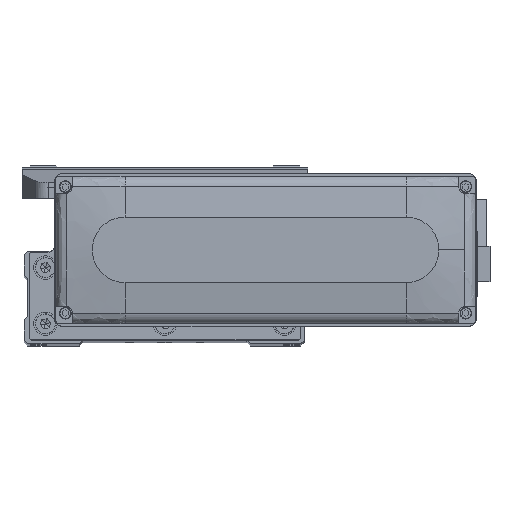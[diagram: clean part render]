
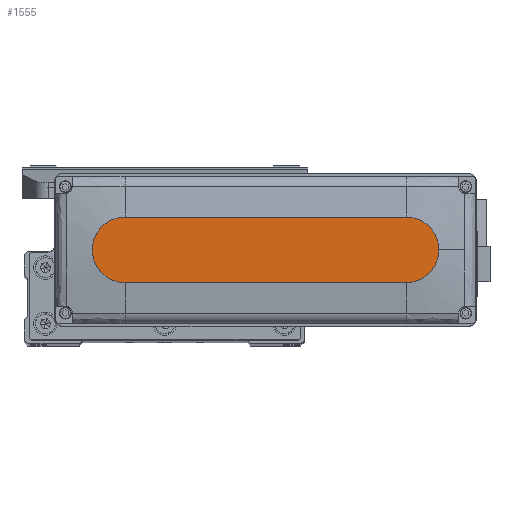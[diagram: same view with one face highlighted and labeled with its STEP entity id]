
A CAD part, top view. The second image highlights one B-rep face of the part: STEP entity #1555.
In plain terms, the highlighted planar face has unit normal (0, 0, 1).
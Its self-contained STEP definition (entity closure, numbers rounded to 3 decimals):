
#237 = EDGE_CURVE ( 'NONE', #4505, #33898, #29069, .T. ) ;
#405 = AXIS2_PLACEMENT_3D ( 'NONE', #10486, #24006, #37451 ) ;
#529 = DIRECTION ( 'NONE',  ( 1., 0., 0. ) ) ;
#622 = DIRECTION ( 'NONE',  ( -1., 0., 0. ) ) ;
#1555 = ADVANCED_FACE ( 'NONE', ( #3287 ), #16823, .T. ) ;
#1976 = ORIENTED_EDGE ( 'NONE', *, *, #237, .T. ) ;
#3287 = FACE_OUTER_BOUND ( 'NONE', #37122, .T. ) ;
#4505 = VERTEX_POINT ( 'NONE', #7232 ) ;
#5010 = VERTEX_POINT ( 'NONE', #31675 ) ;
#7135 = CIRCLE ( 'NONE', #31875, 14. ) ;
#7232 = CARTESIAN_POINT ( 'NONE',  ( -60., -14., 28.5 ) ) ;
#7391 = DIRECTION ( 'NONE',  ( 1., 0., 0. ) ) ;
#7677 = AXIS2_PLACEMENT_3D ( 'NONE', #30307, #25827, #13487 ) ;
#8017 = ORIENTED_EDGE ( 'NONE', *, *, #18243, .T. ) ;
#10486 = CARTESIAN_POINT ( 'NONE',  ( 60., 0., 28.5 ) ) ;
#10971 = VECTOR ( 'NONE', #12245, 1000. ) ;
#12245 = DIRECTION ( 'NONE',  ( 1., 0., 0. ) ) ;
#13487 = DIRECTION ( 'NONE',  ( 1., 0., 0. ) ) ;
#14002 = VERTEX_POINT ( 'NONE', #18458 ) ;
#15020 = CIRCLE ( 'NONE', #39721, 14. ) ;
#15059 = ORIENTED_EDGE ( 'NONE', *, *, #30172, .T. ) ;
#16823 = PLANE ( 'NONE',  #7677 ) ;
#17038 = EDGE_CURVE ( 'NONE', #5010, #4505, #7135, .T. ) ;
#17383 = CARTESIAN_POINT ( 'NONE',  ( 60., 0., 28.5 ) ) ;
#17475 = LINE ( 'NONE', #30952, #26757 ) ;
#18243 = EDGE_CURVE ( 'NONE', #14002, #31254, #15020, .T. ) ;
#18458 = CARTESIAN_POINT ( 'NONE',  ( 74., 0., 28.5 ) ) ;
#18885 = ORIENTED_EDGE ( 'NONE', *, *, #34011, .T. ) ;
#19126 = CARTESIAN_POINT ( 'NONE',  ( 60., 14., 28.5 ) ) ;
#19542 = CIRCLE ( 'NONE', #405, 14. ) ;
#20203 = ORIENTED_EDGE ( 'NONE', *, *, #17038, .T. ) ;
#24006 = DIRECTION ( 'NONE',  ( 0., 0., 1. ) ) ;
#24238 = CARTESIAN_POINT ( 'NONE',  ( -60., 0., 28.5 ) ) ;
#25827 = DIRECTION ( 'NONE',  ( 0., 0., 1. ) ) ;
#26757 = VECTOR ( 'NONE', #622, 1000. ) ;
#29069 = LINE ( 'NONE', #42534, #10971 ) ;
#30172 = EDGE_CURVE ( 'NONE', #31254, #5010, #17475, .T. ) ;
#30307 = CARTESIAN_POINT ( 'NONE',  ( 0., 0., 28.5 ) ) ;
#30870 = DIRECTION ( 'NONE',  ( 0., 0., 1. ) ) ;
#30952 = CARTESIAN_POINT ( 'NONE',  ( -60., 14., 28.5 ) ) ;
#31254 = VERTEX_POINT ( 'NONE', #19126 ) ;
#31675 = CARTESIAN_POINT ( 'NONE',  ( -60., 14., 28.5 ) ) ;
#31875 = AXIS2_PLACEMENT_3D ( 'NONE', #24238, #37686, #7391 ) ;
#33898 = VERTEX_POINT ( 'NONE', #39876 ) ;
#34011 = EDGE_CURVE ( 'NONE', #33898, #14002, #19542, .T. ) ;
#37122 = EDGE_LOOP ( 'NONE', ( #15059, #20203, #1976, #18885, #8017 ) ) ;
#37451 = DIRECTION ( 'NONE',  ( 1., 0., 0. ) ) ;
#37686 = DIRECTION ( 'NONE',  ( 0., 0., 1. ) ) ;
#39721 = AXIS2_PLACEMENT_3D ( 'NONE', #17383, #30870, #529 ) ;
#39876 = CARTESIAN_POINT ( 'NONE',  ( 60., -14., 28.5 ) ) ;
#42534 = CARTESIAN_POINT ( 'NONE',  ( -60., -14., 28.5 ) ) ;
